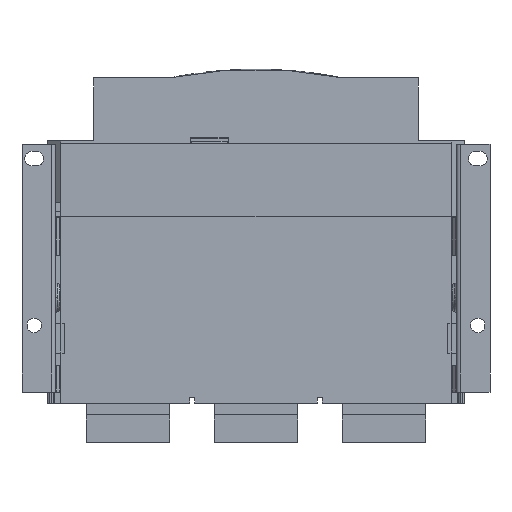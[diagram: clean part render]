
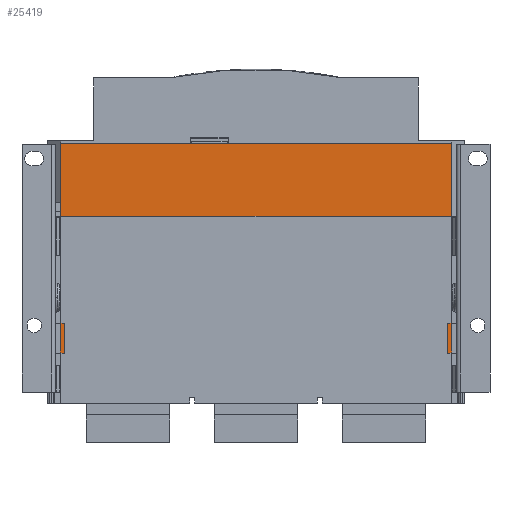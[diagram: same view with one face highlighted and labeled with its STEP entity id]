
A CAD part, front view. The second image highlights one B-rep face of the part: STEP entity #25419.
In plain terms, the highlighted planar face has unit normal (0, -1, 0).
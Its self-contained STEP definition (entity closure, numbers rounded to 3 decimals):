
#559 = ORIENTED_EDGE ( 'NONE', *, *, #80957, .F. ) ;
#722 = EDGE_CURVE ( 'NONE', #29882, #98554, #25139, .T. ) ;
#1392 = CARTESIAN_POINT ( 'NONE',  ( -117.028, 80.523, 370.614 ) ) ;
#1453 = EDGE_CURVE ( 'NONE', #90366, #86278, #66826, .T. ) ;
#2289 = LINE ( 'NONE', #82191, #15319 ) ;
#3343 = DIRECTION ( 'NONE',  ( 0., 0., 1. ) ) ;
#3464 = VECTOR ( 'NONE', #82904, 1000. ) ;
#4242 = VECTOR ( 'NONE', #38989, 1000. ) ;
#4404 = DIRECTION ( 'NONE',  ( 1., 0., 0. ) ) ;
#5242 = VERTEX_POINT ( 'NONE', #28745 ) ;
#8893 = CARTESIAN_POINT ( 'NONE',  ( -117.028, 80.523, 322.614 ) ) ;
#9229 = EDGE_CURVE ( 'NONE', #19743, #62023, #47493, .T. ) ;
#10759 = CARTESIAN_POINT ( 'NONE',  ( -117.528, 80.523, 436.114 ) ) ;
#11476 = ORIENTED_EDGE ( 'NONE', *, *, #50658, .F. ) ;
#11938 = CARTESIAN_POINT ( 'NONE',  ( -121.528, 80.523, 274.614 ) ) ;
#12643 = DIRECTION ( 'NONE',  ( -1., 0., 0. ) ) ;
#13536 = VECTOR ( 'NONE', #105731, 1000. ) ;
#13723 = VERTEX_POINT ( 'NONE', #10759 ) ;
#14558 = ORIENTED_EDGE ( 'NONE', *, *, #100823, .F. ) ;
#15319 = VECTOR ( 'NONE', #15993, 1000. ) ;
#15993 = DIRECTION ( 'NONE',  ( 1., 0., 0. ) ) ;
#17754 = CARTESIAN_POINT ( 'NONE',  ( 234.472, 80.523, 247.614 ) ) ;
#19743 = VERTEX_POINT ( 'NONE', #103121 ) ;
#20453 = VERTEX_POINT ( 'NONE', #26595 ) ;
#20984 = VECTOR ( 'NONE', #92489, 1000. ) ;
#21210 = VERTEX_POINT ( 'NONE', #103140 ) ;
#21622 = CARTESIAN_POINT ( 'NONE',  ( 234.472, 80.523, 217.114 ) ) ;
#23064 = CARTESIAN_POINT ( 'NONE',  ( 233.972, 80.523, 322.614 ) ) ;
#23403 = VERTEX_POINT ( 'NONE', #1392 ) ;
#23525 = ORIENTED_EDGE ( 'NONE', *, *, #722, .F. ) ;
#24310 = EDGE_CURVE ( 'NONE', #21210, #90084, #94015, .T. ) ;
#25139 = LINE ( 'NONE', #63139, #13536 ) ;
#25419 = ADVANCED_FACE ( 'NONE', ( #39238 ), #86167, .F. ) ;
#26496 = CARTESIAN_POINT ( 'NONE',  ( 234.472, 80.523, 217.114 ) ) ;
#26595 = CARTESIAN_POINT ( 'NONE',  ( -117.528, 80.523, 217.114 ) ) ;
#27483 = VERTEX_POINT ( 'NONE', #89402 ) ;
#27908 = CARTESIAN_POINT ( 'NONE',  ( -114.028, 80.523, 261.114 ) ) ;
#28745 = CARTESIAN_POINT ( 'NONE',  ( 233.972, 80.523, 370.614 ) ) ;
#29882 = VERTEX_POINT ( 'NONE', #101990 ) ;
#30094 = CARTESIAN_POINT ( 'NONE',  ( 234.472, 80.523, 247.614 ) ) ;
#30149 = ORIENTED_EDGE ( 'NONE', *, *, #78948, .T. ) ;
#30828 = EDGE_CURVE ( 'NONE', #66602, #5242, #41789, .T. ) ;
#30987 = ORIENTED_EDGE ( 'NONE', *, *, #24310, .T. ) ;
#31315 = DIRECTION ( 'NONE',  ( 0., 0., -1. ) ) ;
#32973 = CARTESIAN_POINT ( 'NONE',  ( 230.972, 80.523, 274.614 ) ) ;
#33104 = CARTESIAN_POINT ( 'NONE',  ( 233.972, 80.523, 897.569 ) ) ;
#33165 = DIRECTION ( 'NONE',  ( 0., 0., 1. ) ) ;
#36948 = ORIENTED_EDGE ( 'NONE', *, *, #30828, .F. ) ;
#37020 = EDGE_CURVE ( 'NONE', #99467, #66602, #2289, .T. ) ;
#38320 = ORIENTED_EDGE ( 'NONE', *, *, #37020, .F. ) ;
#38989 = DIRECTION ( 'NONE',  ( 0., 0., 1. ) ) ;
#39238 = FACE_OUTER_BOUND ( 'NONE', #41516, .T. ) ;
#41516 = EDGE_LOOP ( 'NONE', ( #88442, #30149, #23525, #559, #45720, #30987, #52916, #71499, #36948, #38320, #14558, #75250, #77673, #97636, #83478, #11476 ) ) ;
#41789 = LINE ( 'NONE', #23064, #4242 ) ;
#43854 = DIRECTION ( 'NONE',  ( 1., 0., 0. ) ) ;
#44013 = CARTESIAN_POINT ( 'NONE',  ( -117.028, 80.523, 217.114 ) ) ;
#44519 = DIRECTION ( 'NONE',  ( 0., 0., -1. ) ) ;
#44895 = CARTESIAN_POINT ( 'NONE',  ( 58.472, 80.523, 370.614 ) ) ;
#45564 = LINE ( 'NONE', #8893, #74083 ) ;
#45630 = CARTESIAN_POINT ( 'NONE',  ( 234.472, 80.523, 897.569 ) ) ;
#45720 = ORIENTED_EDGE ( 'NONE', *, *, #70458, .F. ) ;
#47493 = LINE ( 'NONE', #17754, #3464 ) ;
#48788 = VECTOR ( 'NONE', #99716, 1000. ) ;
#50007 = VECTOR ( 'NONE', #12643, 1000. ) ;
#50658 = EDGE_CURVE ( 'NONE', #13723, #90366, #61574, .T. ) ;
#51396 = EDGE_CURVE ( 'NONE', #13723, #20453, #90883, .T. ) ;
#52451 = VECTOR ( 'NONE', #54629, 1000. ) ;
#52916 = ORIENTED_EDGE ( 'NONE', *, *, #69588, .T. ) ;
#53756 = EDGE_CURVE ( 'NONE', #23403, #5242, #58701, .T. ) ;
#54629 = DIRECTION ( 'NONE',  ( 1., 0., 0. ) ) ;
#54653 = VECTOR ( 'NONE', #97363, 1000. ) ;
#57083 = VECTOR ( 'NONE', #43854, 1000. ) ;
#58578 = LINE ( 'NONE', #33104, #62582 ) ;
#58701 = LINE ( 'NONE', #44895, #96254 ) ;
#61574 = LINE ( 'NONE', #104224, #52451 ) ;
#62023 = VERTEX_POINT ( 'NONE', #70734 ) ;
#62582 = VECTOR ( 'NONE', #98922, 1000. ) ;
#63139 = CARTESIAN_POINT ( 'NONE',  ( -117.028, 80.523, 897.569 ) ) ;
#63836 = AXIS2_PLACEMENT_3D ( 'NONE', #45630, #103185, #3343 ) ;
#66602 = VERTEX_POINT ( 'NONE', #85304 ) ;
#66826 = LINE ( 'NONE', #106212, #85949 ) ;
#68218 = LINE ( 'NONE', #107311, #48788 ) ;
#69588 = EDGE_CURVE ( 'NONE', #90084, #23403, #45564, .T. ) ;
#70458 = EDGE_CURVE ( 'NONE', #21210, #87594, #91776, .T. ) ;
#70734 = CARTESIAN_POINT ( 'NONE',  ( 230.972, 80.523, 247.614 ) ) ;
#71499 = ORIENTED_EDGE ( 'NONE', *, *, #53756, .T. ) ;
#74083 = VECTOR ( 'NONE', #33165, 1000. ) ;
#75250 = ORIENTED_EDGE ( 'NONE', *, *, #9229, .F. ) ;
#75552 = CARTESIAN_POINT ( 'NONE',  ( 234.472, 80.523, 436.114 ) ) ;
#77673 = ORIENTED_EDGE ( 'NONE', *, *, #98848, .T. ) ;
#78948 = EDGE_CURVE ( 'NONE', #20453, #98554, #103667, .T. ) ;
#80743 = CARTESIAN_POINT ( 'NONE',  ( -114.028, 80.523, 247.614 ) ) ;
#80957 = EDGE_CURVE ( 'NONE', #87594, #29882, #87064, .T. ) ;
#81966 = CARTESIAN_POINT ( 'NONE',  ( 230.972, 80.523, 261.114 ) ) ;
#82191 = CARTESIAN_POINT ( 'NONE',  ( 238.472, 80.523, 274.614 ) ) ;
#82790 = VECTOR ( 'NONE', #44519, 1000. ) ;
#82904 = DIRECTION ( 'NONE',  ( -1., 0., 0. ) ) ;
#83478 = ORIENTED_EDGE ( 'NONE', *, *, #1453, .F. ) ;
#85304 = CARTESIAN_POINT ( 'NONE',  ( 233.972, 80.523, 274.614 ) ) ;
#85949 = VECTOR ( 'NONE', #31315, 1000. ) ;
#86167 = PLANE ( 'NONE',  #63836 ) ;
#86278 = VERTEX_POINT ( 'NONE', #21622 ) ;
#86552 = EDGE_CURVE ( 'NONE', #27483, #86278, #68218, .T. ) ;
#87064 = LINE ( 'NONE', #30094, #54653 ) ;
#87594 = VERTEX_POINT ( 'NONE', #80743 ) ;
#88442 = ORIENTED_EDGE ( 'NONE', *, *, #51396, .T. ) ;
#89357 = VECTOR ( 'NONE', #105499, 1000. ) ;
#89402 = CARTESIAN_POINT ( 'NONE',  ( 233.972, 80.523, 217.114 ) ) ;
#90084 = VERTEX_POINT ( 'NONE', #91824 ) ;
#90366 = VERTEX_POINT ( 'NONE', #75552 ) ;
#90883 = LINE ( 'NONE', #91413, #20984 ) ;
#91413 = CARTESIAN_POINT ( 'NONE',  ( -117.528, 80.523, 897.569 ) ) ;
#91776 = LINE ( 'NONE', #27908, #82790 ) ;
#91824 = CARTESIAN_POINT ( 'NONE',  ( -117.028, 80.523, 274.614 ) ) ;
#92489 = DIRECTION ( 'NONE',  ( 0., 0., -1. ) ) ;
#94015 = LINE ( 'NONE', #11938, #50007 ) ;
#96254 = VECTOR ( 'NONE', #4404, 1000. ) ;
#96688 = LINE ( 'NONE', #81966, #89357 ) ;
#97363 = DIRECTION ( 'NONE',  ( -1., 0., 0. ) ) ;
#97636 = ORIENTED_EDGE ( 'NONE', *, *, #86552, .T. ) ;
#98554 = VERTEX_POINT ( 'NONE', #44013 ) ;
#98848 = EDGE_CURVE ( 'NONE', #19743, #27483, #58578, .T. ) ;
#98922 = DIRECTION ( 'NONE',  ( 0., 0., -1. ) ) ;
#99467 = VERTEX_POINT ( 'NONE', #32973 ) ;
#99716 = DIRECTION ( 'NONE',  ( 1., 0., 0. ) ) ;
#100823 = EDGE_CURVE ( 'NONE', #62023, #99467, #96688, .T. ) ;
#101990 = CARTESIAN_POINT ( 'NONE',  ( -117.028, 80.523, 247.614 ) ) ;
#103121 = CARTESIAN_POINT ( 'NONE',  ( 233.972, 80.523, 247.614 ) ) ;
#103140 = CARTESIAN_POINT ( 'NONE',  ( -114.028, 80.523, 274.614 ) ) ;
#103185 = DIRECTION ( 'NONE',  ( 0., 1., 0. ) ) ;
#103667 = LINE ( 'NONE', #26496, #57083 ) ;
#104224 = CARTESIAN_POINT ( 'NONE',  ( 234.472, 80.523, 436.114 ) ) ;
#105499 = DIRECTION ( 'NONE',  ( 0., 0., 1. ) ) ;
#105731 = DIRECTION ( 'NONE',  ( 0., 0., -1. ) ) ;
#106212 = CARTESIAN_POINT ( 'NONE',  ( 234.472, 80.523, 897.569 ) ) ;
#107311 = CARTESIAN_POINT ( 'NONE',  ( 234.472, 80.523, 217.114 ) ) ;
